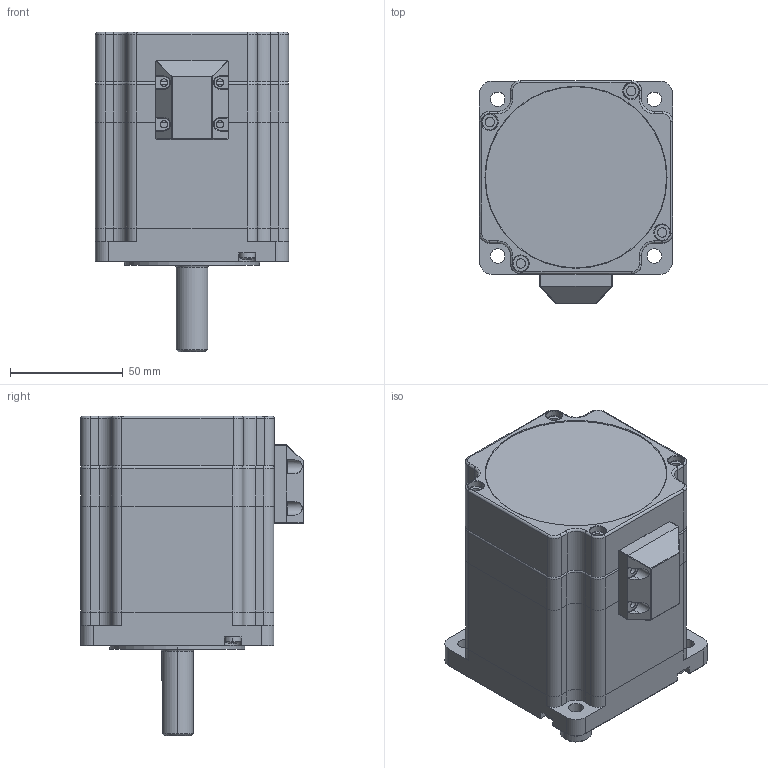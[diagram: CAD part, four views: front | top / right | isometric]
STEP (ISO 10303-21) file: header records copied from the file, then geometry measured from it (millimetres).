
FILE_DESCRIPTION((''),'2;1');
FILE_NAME('YK286EC80A1_ASM','2024-06-21T14:24:44',('Admin'),(''),'CREO PARAMETRIC BY PTC INC, 2020074','CREO PARAMETRIC BY PTC INC, 2020074','');
FILE_SCHEMA(('CONFIG_CONTROL_DESIGN'));
Length unit declared in the file: millimetre
Products named in the file (8): M4_0_10001; YK286ECXXA1_100; 286_10001; YK286_10001; YK286EC80A1_ASM
Assembly tree (10 placements, depth 2):
  YK286EC80A1_ASM
    M4_0_10001  x4
    YK286ECXXA1_100
    YK286ECXXA1_100
    YK286ECXXA1_100
    286_10001
    YK286ECXXA1_100
    YK286_10001
Bounding box: 85.85 x 99 x 142 mm (x, y, z)
Volume: 465408.1 mm3; surface area: 117149.8 mm2
Topology: 10 solids, 10 shells, 698 faces, 1718 edges, 1054 vertices
Faces by surface type: plane 291, cylinder 279, torus 75, cone 29, bspline 16, sphere 8
Entity records: 20044 total; most frequent: CARTESIAN_POINT 5068, DIRECTION 3232, ORIENTED_EDGE 3036, EDGE_CURVE 1518, AXIS2_PLACEMENT_3D 1225, VERTEX_POINT 949, VECTOR 782, LINE 782
